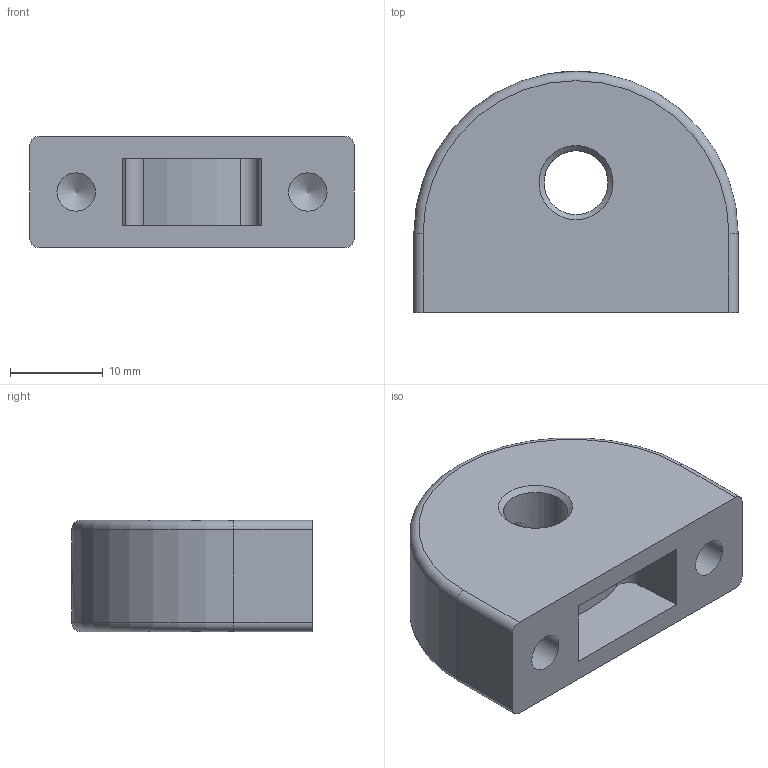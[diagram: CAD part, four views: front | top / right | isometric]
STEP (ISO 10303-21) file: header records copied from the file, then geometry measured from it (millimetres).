
FILE_DESCRIPTION( ( 'STEP AP203' ), '1' );
FILE_NAME( 'C:/Temp/Ganter_Step_05_03_2020/data/3_1/gn412_1/Mounting block GN 412.1-35-M8x1-2.stp', '2020-03-12T08:30:54', ( 'License CC BY-ND 4.0' ), ( 'CADENAS' ), ' ', 'PARTsolutions', ' ' );
FILE_SCHEMA( ( 'CONFIG_CONTROL_DESIGN' ) );
Length unit declared in the file: millimetre
Products named in the file (1): _Mounting block GN 412.1-35-M8x1-2
Bounding box: 35 x 26 x 12 mm (x, y, z)
Volume: 7733.4 mm3; surface area: 3642.7 mm2
Topology: 1 solids, 1 shells, 43 faces, 96 edges, 60 vertices
Faces by surface type: plane 19, cylinder 15, cone 7, torus 2
Full cylindrical faces by diameter (mm): 2.5 x1, 4 x2, 4.134 x2, 6.917 x1, 8.2 x1
Entity records: 1264 total; most frequent: CARTESIAN_POINT 296, DIRECTION 200, ORIENTED_EDGE 160, EDGE_CURVE 80, AXIS2_PLACEMENT_3D 78, EDGE_LOOP 64, VERTEX_POINT 60, FACE_OUTER_BOUND 50
